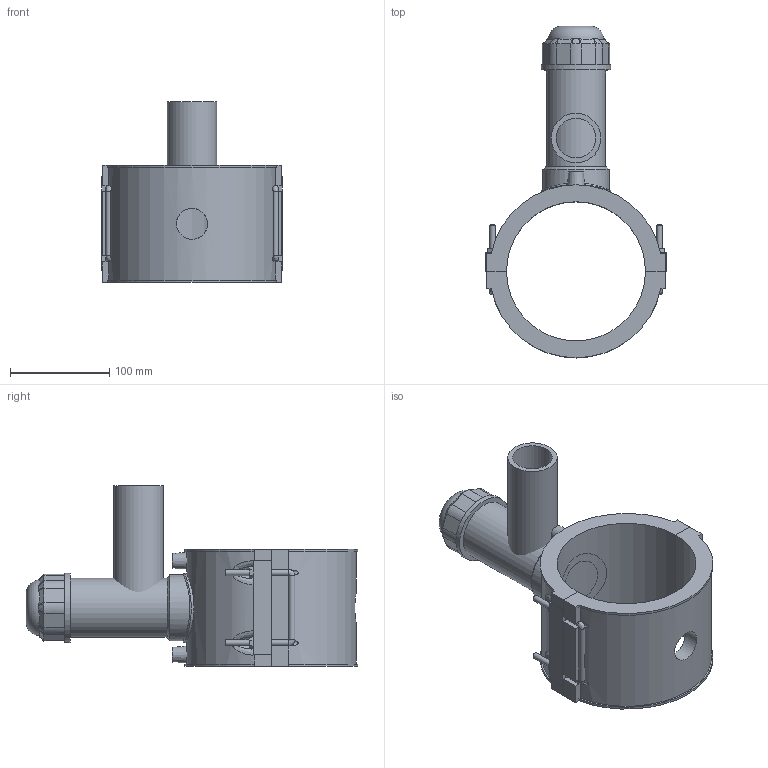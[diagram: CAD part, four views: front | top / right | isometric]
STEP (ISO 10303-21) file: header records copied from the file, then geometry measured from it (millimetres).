
FILE_DESCRIPTION(/* description */ (''),/* implementation_level */ '2;1');
FILE_NAME(/* name */ 'C:\Dropbox\KIMPROJECTS-Inventor 2019\99-16-3568-Processing\ElectroFusion Fittings\4963P4\stp\4963P4140050.stp',/* time_stamp */ '2022-03-17T11:29:35+02:00',/* author */ ('KIM'),/* organization */ (''),/* preprocessor_version */ 'ST-DEVELOPER v17.2',/* originating_system */ 'Autodesk Inventor 2019',/* authorisation */ '');
FILE_SCHEMA (('AUTOMOTIVE_DESIGN { 1 0 10303 214 3 1 1 }'));
Length unit declared in the file: millimetre
Products named in the file (1): 4963P4140050
Bounding box: 182 x 334.11 x 182 mm (x, y, z)
Volume: 1312931.1 mm3; surface area: 254102.9 mm2
Topology: 3 solids, 3 shells, 217 faces, 551 edges, 349 vertices
Faces by surface type: plane 119, cylinder 53, bspline 29, cone 15, torus 1
Full cylindrical faces by diameter (mm): 4 x2, 6 x8, 10 x2, 31.36 x1, 40 x1, 49 x1, 50 x1, 59.5 x1, 66.5 x1, 70 x2
Entity records: 8001 total; most frequent: CARTESIAN_POINT 2914, ORIENTED_EDGE 1086, DIRECTION 966, EDGE_CURVE 543, VERTEX_POINT 349, AXIS2_PLACEMENT_3D 331, LINE 304, VECTOR 304
